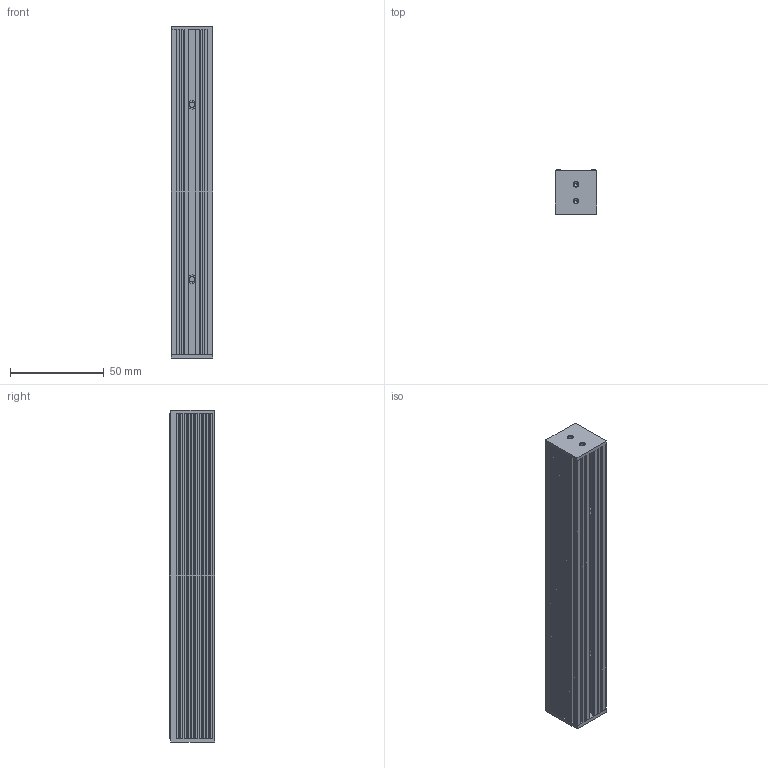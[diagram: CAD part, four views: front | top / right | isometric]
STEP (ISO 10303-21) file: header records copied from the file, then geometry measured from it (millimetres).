
FILE_DESCRIPTION((''),'2;1');
FILE_NAME('DSL','2020-03-23T',('ASUS'),(''),'PRO/ENGINEER BY PARAMETRIC TECHNOLOGY CORPORATION, 2008380','PRO/ENGINEER BY PARAMETRIC TECHNOLOGY CORPORATION, 2008380','');
FILE_SCHEMA(('CONFIG_CONTROL_DESIGN'));
Length unit declared in the file: millimetre
Products named in the file (1): DSL
Bounding box: 22 x 24.02 x 177 mm (x, y, z)
Volume: 81641.2 mm3; surface area: 32165 mm2
Topology: 1 solids, 5 shells, 275 faces, 711 edges, 464 vertices
Faces by surface type: plane 169, cylinder 86, cone 20
Entity records: 8365 total; most frequent: CARTESIAN_POINT 1518, DIRECTION 1407, ORIENTED_EDGE 1390, EDGE_CURVE 703, VECTOR 507, LINE 507, VERTEX_POINT 464, AXIS2_PLACEMENT_3D 450
